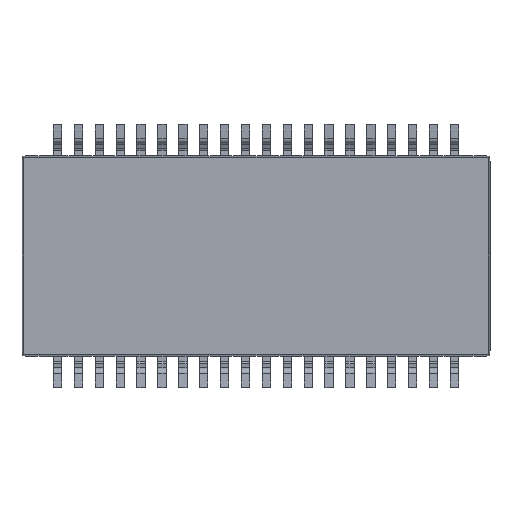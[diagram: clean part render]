
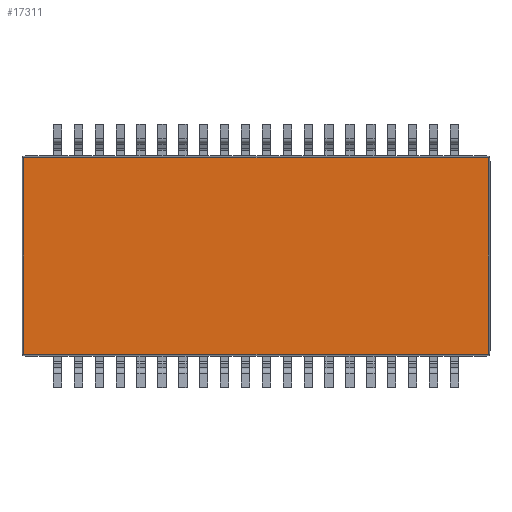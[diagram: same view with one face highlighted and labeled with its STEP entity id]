
A CAD part, front view. The second image highlights one B-rep face of the part: STEP entity #17311.
In plain terms, the highlighted planar face has unit normal (0, -1, 0).
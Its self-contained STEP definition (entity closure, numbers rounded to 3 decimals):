
#849 = EDGE_LOOP ( 'NONE', ( #14266, #4261, #12189, #14668 ) ) ;
#2905 = VECTOR ( 'NONE', #7412, 1000. ) ;
#3188 = DIRECTION ( 'NONE',  ( 0., -1., 0. ) ) ;
#3873 = CARTESIAN_POINT ( 'NONE',  ( 14.104, -2.286, 5.976 ) ) ;
#4143 = EDGE_CURVE ( 'NONE', #14407, #8143, #15648, .T. ) ;
#4241 = DIRECTION ( 'NONE',  ( 1., 0., 0. ) ) ;
#4261 = ORIENTED_EDGE ( 'NONE', *, *, #16085, .T. ) ;
#4296 = CARTESIAN_POINT ( 'NONE',  ( 14.224, -2.286, -5.976 ) ) ;
#4313 = CARTESIAN_POINT ( 'NONE',  ( 14.104, -2.286, -5.976 ) ) ;
#4784 = LINE ( 'NONE', #13632, #11482 ) ;
#6091 = CARTESIAN_POINT ( 'NONE',  ( 14.104, -2.286, -6.096 ) ) ;
#7075 = PLANE ( 'NONE',  #14681 ) ;
#7261 = VERTEX_POINT ( 'NONE', #4313 ) ;
#7412 = DIRECTION ( 'NONE',  ( 0., 0., 1. ) ) ;
#7622 = VECTOR ( 'NONE', #4241, 1000. ) ;
#8143 = VERTEX_POINT ( 'NONE', #8369 ) ;
#8369 = CARTESIAN_POINT ( 'NONE',  ( -14.104, -2.286, 5.976 ) ) ;
#8501 = LINE ( 'NONE', #4296, #7622 ) ;
#10069 = LINE ( 'NONE', #6091, #2905 ) ;
#11482 = VECTOR ( 'NONE', #14948, 1000. ) ;
#11887 = FACE_OUTER_BOUND ( 'NONE', #849, .T. ) ;
#12189 = ORIENTED_EDGE ( 'NONE', *, *, #17387, .T. ) ;
#12290 = DIRECTION ( 'NONE',  ( 0., 0., -1. ) ) ;
#12642 = VERTEX_POINT ( 'NONE', #16224 ) ;
#13632 = CARTESIAN_POINT ( 'NONE',  ( -14.104, -2.286, -6.096 ) ) ;
#14266 = ORIENTED_EDGE ( 'NONE', *, *, #17327, .T. ) ;
#14314 = CARTESIAN_POINT ( 'NONE',  ( 14.224, -2.286, 5.976 ) ) ;
#14407 = VERTEX_POINT ( 'NONE', #3873 ) ;
#14436 = DIRECTION ( 'NONE',  ( -1., 0., 0. ) ) ;
#14668 = ORIENTED_EDGE ( 'NONE', *, *, #4143, .T. ) ;
#14681 = AXIS2_PLACEMENT_3D ( 'NONE', #16379, #3188, #12290 ) ;
#14948 = DIRECTION ( 'NONE',  ( 0., 0., -1. ) ) ;
#15648 = LINE ( 'NONE', #14314, #15901 ) ;
#15901 = VECTOR ( 'NONE', #14436, 1000. ) ;
#16085 = EDGE_CURVE ( 'NONE', #12642, #7261, #8501, .T. ) ;
#16224 = CARTESIAN_POINT ( 'NONE',  ( -14.104, -2.286, -5.976 ) ) ;
#16379 = CARTESIAN_POINT ( 'NONE',  ( -14.224, -2.286, 6.096 ) ) ;
#17311 = ADVANCED_FACE ( 'NONE', ( #11887 ), #7075, .T. ) ;
#17327 = EDGE_CURVE ( 'NONE', #8143, #12642, #4784, .T. ) ;
#17387 = EDGE_CURVE ( 'NONE', #7261, #14407, #10069, .T. ) ;
